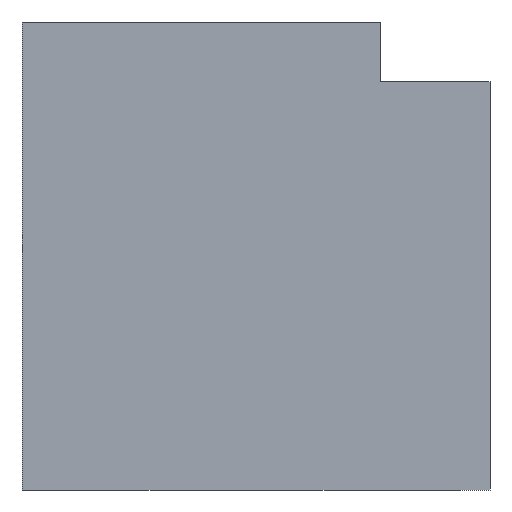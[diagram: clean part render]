
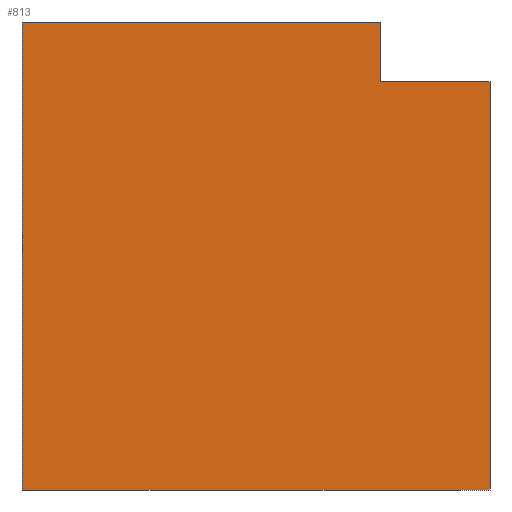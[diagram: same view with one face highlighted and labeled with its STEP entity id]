
A CAD part, left-side view. The second image highlights one B-rep face of the part: STEP entity #813.
In plain terms, the highlighted planar face has unit normal (-1, 0, 0).
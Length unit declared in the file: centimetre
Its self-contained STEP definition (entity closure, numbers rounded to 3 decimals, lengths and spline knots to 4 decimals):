
#3 = LINE ( 'NONE', #651, #472 ) ;
#7 = VECTOR ( 'NONE', #32, 100. ) ;
#20 = CARTESIAN_POINT ( 'NONE',  ( 0., 1000., 0. ) ) ;
#21 = CARTESIAN_POINT ( 'NONE',  ( 0., 1000., 1000. ) ) ;
#32 = DIRECTION ( 'NONE',  ( 0., 1., 0. ) ) ;
#72 = CARTESIAN_POINT ( 'NONE',  ( 0., 0., 1000. ) ) ;
#100 = CARTESIAN_POINT ( 'NONE',  ( 0., 1000., 0. ) ) ;
#103 = LINE ( 'NONE', #742, #644 ) ;
#150 = DIRECTION ( 'NONE',  ( 1., 0., 0. ) ) ;
#199 = VERTEX_POINT ( 'NONE', #340 ) ;
#203 = PLANE ( 'NONE',  #523 ) ;
#210 = DIRECTION ( 'NONE',  ( 0., 0., -1. ) ) ;
#214 = EDGE_LOOP ( 'NONE', ( #757, #747, #283, #592, #743, #400 ) ) ;
#228 = VERTEX_POINT ( 'NONE', #386 ) ;
#274 = DIRECTION ( 'NONE',  ( 0., -1., 0. ) ) ;
#283 = ORIENTED_EDGE ( 'NONE', *, *, #499, .T. ) ;
#288 = VECTOR ( 'NONE', #274, 100. ) ;
#299 = LINE ( 'NONE', #100, #288 ) ;
#321 = EDGE_CURVE ( 'NONE', #228, #496, #3, .T. ) ;
#340 = CARTESIAN_POINT ( 'NONE',  ( 0., 233.5601, 872.6965 ) ) ;
#347 = EDGE_CURVE ( 'NONE', #556, #753, #510, .T. ) ;
#375 = VECTOR ( 'NONE', #730, 100. ) ;
#386 = CARTESIAN_POINT ( 'NONE',  ( 0., 1000., 1000. ) ) ;
#400 = ORIENTED_EDGE ( 'NONE', *, *, #683, .T. ) ;
#472 = VECTOR ( 'NONE', #717, 100. ) ;
#496 = VERTEX_POINT ( 'NONE', #740 ) ;
#499 = EDGE_CURVE ( 'NONE', #199, #496, #673, .T. ) ;
#507 = DIRECTION ( 'NONE',  ( 0., 0., -1. ) ) ;
#510 = LINE ( 'NONE', #72, #825 ) ;
#518 = DIRECTION ( 'NONE',  ( 0., 0., -1. ) ) ;
#523 = AXIS2_PLACEMENT_3D ( 'NONE', #21, #150, #518 ) ;
#524 = EDGE_CURVE ( 'NONE', #556, #199, #617, .T. ) ;
#556 = VERTEX_POINT ( 'NONE', #677 ) ;
#558 = VERTEX_POINT ( 'NONE', #20 ) ;
#592 = ORIENTED_EDGE ( 'NONE', *, *, #321, .F. ) ;
#611 = CARTESIAN_POINT ( 'NONE',  ( 0., 233.5601, 872.6965 ) ) ;
#617 = LINE ( 'NONE', #800, #7 ) ;
#644 = VECTOR ( 'NONE', #210, 100. ) ;
#651 = CARTESIAN_POINT ( 'NONE',  ( 0., 1000., 1000. ) ) ;
#673 = LINE ( 'NONE', #611, #375 ) ;
#677 = CARTESIAN_POINT ( 'NONE',  ( 0., 0., 872.6965 ) ) ;
#683 = EDGE_CURVE ( 'NONE', #558, #753, #299, .T. ) ;
#684 = CARTESIAN_POINT ( 'NONE',  ( 0., 0., 0. ) ) ;
#717 = DIRECTION ( 'NONE',  ( 0., -1., 0. ) ) ;
#730 = DIRECTION ( 'NONE',  ( 0., 0., 1. ) ) ;
#737 = EDGE_CURVE ( 'NONE', #228, #558, #103, .T. ) ;
#740 = CARTESIAN_POINT ( 'NONE',  ( 0., 233.5601, 1000. ) ) ;
#742 = CARTESIAN_POINT ( 'NONE',  ( 0., 1000., 1000. ) ) ;
#743 = ORIENTED_EDGE ( 'NONE', *, *, #737, .T. ) ;
#747 = ORIENTED_EDGE ( 'NONE', *, *, #524, .T. ) ;
#753 = VERTEX_POINT ( 'NONE', #684 ) ;
#757 = ORIENTED_EDGE ( 'NONE', *, *, #347, .F. ) ;
#790 = FACE_OUTER_BOUND ( 'NONE', #214, .T. ) ;
#800 = CARTESIAN_POINT ( 'NONE',  ( 0., 0., 872.6965 ) ) ;
#813 = ADVANCED_FACE ( 'NONE', ( #790 ), #203, .F. ) ;
#825 = VECTOR ( 'NONE', #507, 100. ) ;
